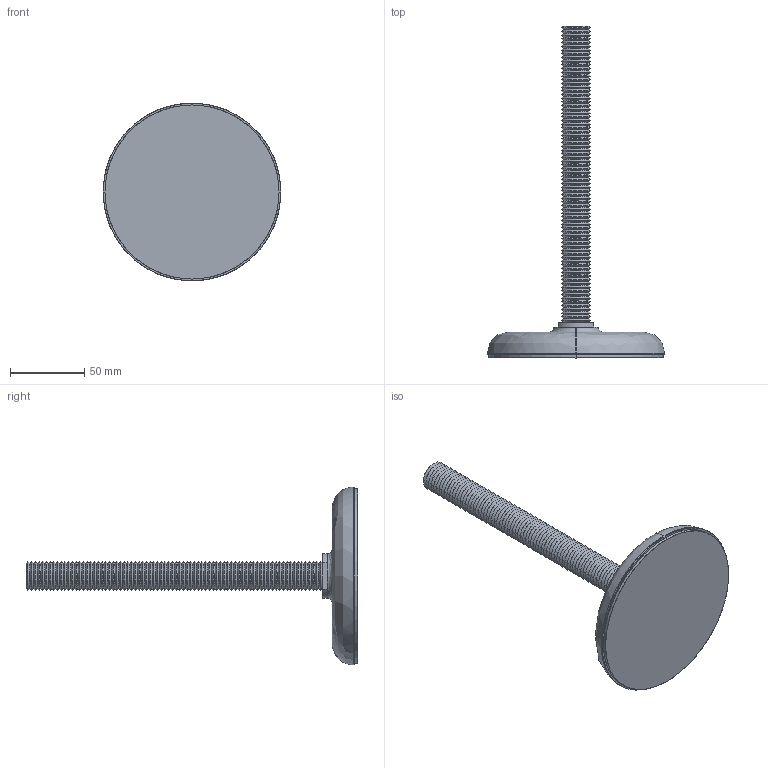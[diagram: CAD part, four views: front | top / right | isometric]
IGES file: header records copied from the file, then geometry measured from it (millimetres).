
Start section: SolidWorks IGES file using analytic representation for surfaces
Global section: file name: C:\Documents and Settings\IANO\Desktop\Temp File\Process pending\EXISTING\34780_v2\34780_v2_20170626_IGES\34780.W0201.igs; native system: SolidWorks 2009; preprocessor: SolidWorks 2009; author: IANO; date: 170626.122554; units: millimetre
Bounding box: 120 x 224 x 120 mm (x, y, z)
Surface area: 98037.4 mm2 (no closed solid volume)
Topology: 0 solids, 0 shells, 388 faces, 2498 edges, 2498 vertices
Faces by surface type: revolution 360, bspline 28
